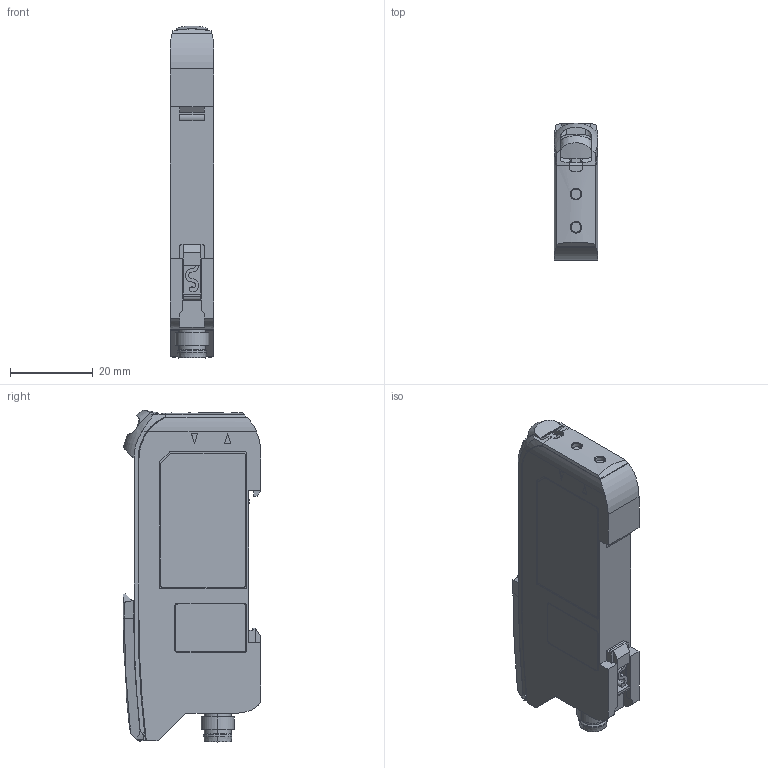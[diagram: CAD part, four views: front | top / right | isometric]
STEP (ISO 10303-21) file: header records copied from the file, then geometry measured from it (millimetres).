
FILE_DESCRIPTION (( 'STEP AP214' ), '1' );
FILE_NAME ('D4RF-TC4_220425.STEP', '2022-04-25T10:56:50', ( '' ), ( '' ), 'SwSTEP 2.0', 'SolidWorks 2021', '' );
FILE_SCHEMA (( 'AUTOMOTIVE_DESIGN' ));
Length unit declared in the file: millimetre
Products named in the file (3): D4RF-TC4_220425; 220425360; 220425361
Assembly tree (2 placements, depth 2):
  D4RF-TC4_220425
    220425360
    220425361
Bounding box: 10.55 x 33.2 x 80.15 mm (x, y, z)
Volume: 22706.4 mm3; surface area: 9419 mm2
Topology: 2 solids, 17 shells, 754 faces, 1950 edges, 1243 vertices
Faces by surface type: plane 366, cylinder 192, bspline 148, cone 33, torus 9, sphere 6
Entity records: 36487 total; most frequent: CARTESIAN_POINT 11223, ORIENTED_EDGE 3832, DIRECTION 2893, EDGE_CURVE 1916, VERTEX_POINT 1231, VECTOR 1039, LINE 1039, AXIS2_PLACEMENT_3D 927
